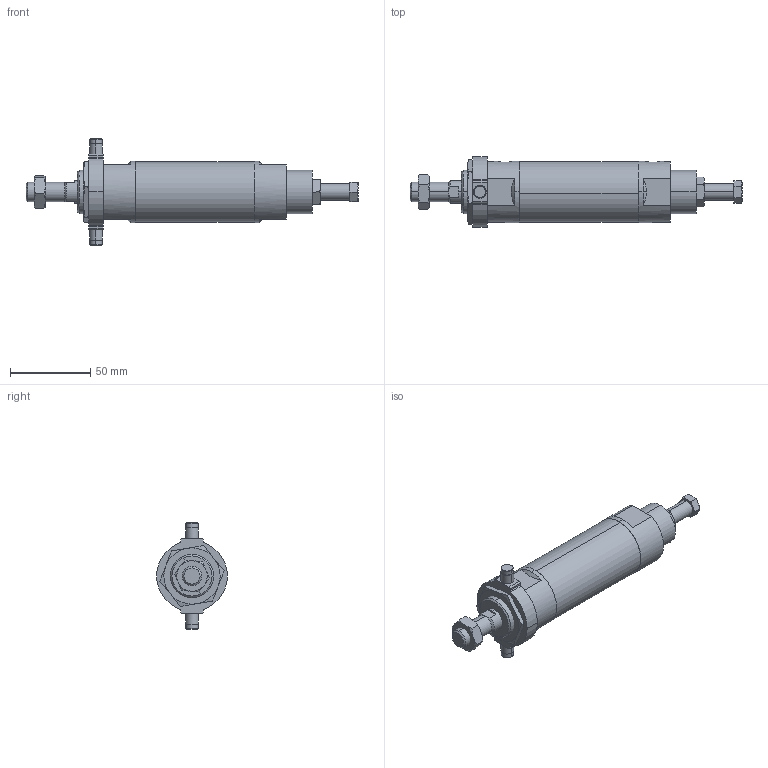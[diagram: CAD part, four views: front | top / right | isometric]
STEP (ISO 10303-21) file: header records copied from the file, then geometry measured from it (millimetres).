
FILE_DESCRIPTION (( 'STEP AP203' ), '1' );
FILE_NAME ('JGA2-32-25-T.STEP', '2016-04-20T05:08:54', ( '' ), ( '' ), 'SwSTEP 2.0', 'SolidWorks 2014', '' );
FILE_SCHEMA (( 'CONFIG_CONTROL_DESIGN' ));
Length unit declared in the file: millimetre
Products named in the file (7): J#2-32-T; 32-25; M12x1.25-7mm; JGA2-32-25-T; JGA2-32A; JGLH2-32B; M27x2-3mm
Assembly tree (6 placements, depth 2):
  JGA2-32-25-T
    JGLH2-32B
    32-25
    JGA2-32A
    M12x1.25-7mm
    M27x2-3mm
    J#2-32-T
Bounding box: 206.5 x 44 x 66 mm (x, y, z)
Volume: 161737.5 mm3; surface area: 33784.3 mm2
Topology: 6 solids, 6 shells, 163 faces, 367 edges, 222 vertices
Faces by surface type: plane 58, cylinder 45, torus 36, cone 24
Entity records: 5882 total; most frequent: CARTESIAN_POINT 1579, DIRECTION 763, ORIENTED_EDGE 726, EDGE_CURVE 363, AXIS2_PLACEMENT_3D 314, VERTEX_POINT 222, EDGE_LOOP 179, FACE_OUTER_BOUND 163
